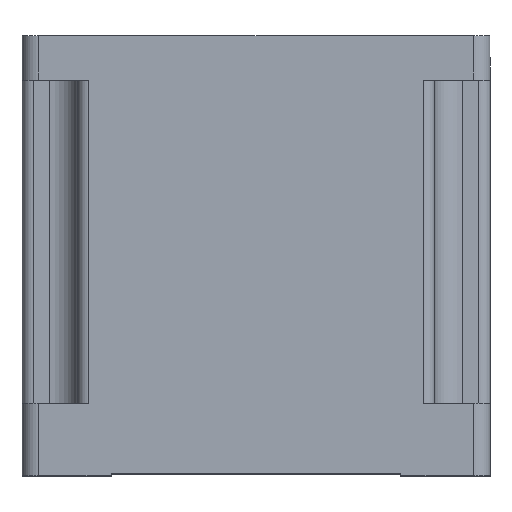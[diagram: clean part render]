
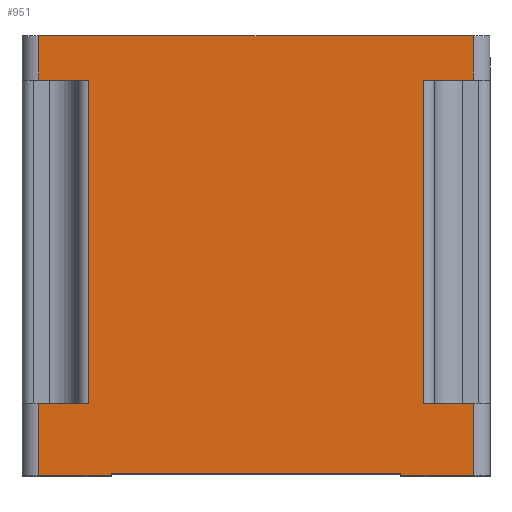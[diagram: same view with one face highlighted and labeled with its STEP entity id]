
A CAD part, top view. The second image highlights one B-rep face of the part: STEP entity #951.
In plain terms, the highlighted planar face has unit normal (0, 0, 1).
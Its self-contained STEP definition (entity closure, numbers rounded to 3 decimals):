
#20 = CARTESIAN_POINT ( 'NONE',  ( -19.5, 0., 21. ) ) ;
#31 = VERTEX_POINT ( 'NONE', #1897 ) ;
#33 = LINE ( 'NONE', #1794, #2622 ) ;
#64 = VECTOR ( 'NONE', #573, 1000. ) ;
#110 = VECTOR ( 'NONE', #1384, 1000. ) ;
#144 = CARTESIAN_POINT ( 'NONE',  ( 13., 0.2, 21. ) ) ;
#156 = CARTESIAN_POINT ( 'NONE',  ( 19.5, 39.5, 21. ) ) ;
#186 = DIRECTION ( 'NONE',  ( 1., 0., 0. ) ) ;
#190 = DIRECTION ( 'NONE',  ( 1., 0., 0. ) ) ;
#236 = ORIENTED_EDGE ( 'NONE', *, *, #595, .T. ) ;
#240 = EDGE_CURVE ( 'NONE', #2076, #1873, #2529, .T. ) ;
#243 = CARTESIAN_POINT ( 'NONE',  ( 21., 35.5, 21. ) ) ;
#250 = VERTEX_POINT ( 'NONE', #522 ) ;
#274 = VERTEX_POINT ( 'NONE', #2362 ) ;
#317 = LINE ( 'NONE', #1201, #1512 ) ;
#327 = DIRECTION ( 'NONE',  ( 0., -1., 0. ) ) ;
#334 = EDGE_CURVE ( 'NONE', #1200, #780, #1937, .T. ) ;
#373 = DIRECTION ( 'NONE',  ( 0., 1., 0. ) ) ;
#386 = EDGE_CURVE ( 'NONE', #2605, #2518, #2371, .T. ) ;
#389 = DIRECTION ( 'NONE',  ( 0., 1., 0. ) ) ;
#418 = ORIENTED_EDGE ( 'NONE', *, *, #685, .T. ) ;
#423 = CARTESIAN_POINT ( 'NONE',  ( 21., 39.5, 21. ) ) ;
#429 = DIRECTION ( 'NONE',  ( 0., 0., -1. ) ) ;
#433 = VECTOR ( 'NONE', #768, 1000. ) ;
#459 = EDGE_LOOP ( 'NONE', ( #528, #2325, #721, #1501, #1992, #418, #1237, #1974, #236, #935, #1666, #1976, #2428, #2144, #1027, #2291 ) ) ;
#516 = CARTESIAN_POINT ( 'NONE',  ( -13., 0.2, 21. ) ) ;
#522 = CARTESIAN_POINT ( 'NONE',  ( -13., 0.2, 21. ) ) ;
#524 = CARTESIAN_POINT ( 'NONE',  ( -19.5, 39.5, 21. ) ) ;
#528 = ORIENTED_EDGE ( 'NONE', *, *, #1103, .T. ) ;
#573 = DIRECTION ( 'NONE',  ( 1., 0., 0. ) ) ;
#574 = VERTEX_POINT ( 'NONE', #156 ) ;
#586 = VECTOR ( 'NONE', #2540, 1000. ) ;
#595 = EDGE_CURVE ( 'NONE', #780, #997, #1028, .T. ) ;
#605 = VERTEX_POINT ( 'NONE', #779 ) ;
#636 = EDGE_CURVE ( 'NONE', #2076, #250, #967, .T. ) ;
#642 = LINE ( 'NONE', #516, #702 ) ;
#650 = VERTEX_POINT ( 'NONE', #758 ) ;
#651 = VECTOR ( 'NONE', #373, 1000. ) ;
#666 = PLANE ( 'NONE',  #824 ) ;
#685 = EDGE_CURVE ( 'NONE', #2541, #650, #970, .T. ) ;
#691 = DIRECTION ( 'NONE',  ( -1., 0., 0. ) ) ;
#702 = VECTOR ( 'NONE', #327, 1000. ) ;
#721 = ORIENTED_EDGE ( 'NONE', *, *, #2333, .F. ) ;
#742 = CARTESIAN_POINT ( 'NONE',  ( -19.5, 35.5, 21. ) ) ;
#758 = CARTESIAN_POINT ( 'NONE',  ( -15., 6.5, 21. ) ) ;
#768 = DIRECTION ( 'NONE',  ( 0., -1., 0. ) ) ;
#771 = EDGE_CURVE ( 'NONE', #1873, #1271, #1853, .T. ) ;
#779 = CARTESIAN_POINT ( 'NONE',  ( 19.5, 6.5, 21. ) ) ;
#780 = VERTEX_POINT ( 'NONE', #20 ) ;
#821 = DIRECTION ( 'NONE',  ( 0., 1., 0. ) ) ;
#824 = AXIS2_PLACEMENT_3D ( 'NONE', #977, #429, #691 ) ;
#830 = VECTOR ( 'NONE', #966, 1000. ) ;
#862 = VECTOR ( 'NONE', #2499, 1000. ) ;
#900 = CARTESIAN_POINT ( 'NONE',  ( 13., 0.2, 21. ) ) ;
#934 = LINE ( 'NONE', #423, #862 ) ;
#935 = ORIENTED_EDGE ( 'NONE', *, *, #2601, .F. ) ;
#951 = ADVANCED_FACE ( 'NONE', ( #1361 ), #666, .F. ) ;
#954 = DIRECTION ( 'NONE',  ( 1., 0., 0. ) ) ;
#966 = DIRECTION ( 'NONE',  ( 1., 0., 0. ) ) ;
#967 = LINE ( 'NONE', #1589, #110 ) ;
#970 = LINE ( 'NONE', #2230, #433 ) ;
#974 = EDGE_CURVE ( 'NONE', #31, #574, #2380, .T. ) ;
#977 = CARTESIAN_POINT ( 'NONE',  ( -21., 35.5, 21. ) ) ;
#993 = CARTESIAN_POINT ( 'NONE',  ( 19.5, 35.5, 21. ) ) ;
#997 = VERTEX_POINT ( 'NONE', #1381 ) ;
#1002 = EDGE_CURVE ( 'NONE', #1468, #274, #2598, .T. ) ;
#1027 = ORIENTED_EDGE ( 'NONE', *, *, #2160, .F. ) ;
#1028 = LINE ( 'NONE', #1146, #830 ) ;
#1103 = EDGE_CURVE ( 'NONE', #2518, #31, #1206, .T. ) ;
#1143 = CARTESIAN_POINT ( 'NONE',  ( -21., 0., 21. ) ) ;
#1146 = CARTESIAN_POINT ( 'NONE',  ( -21., 0., 21. ) ) ;
#1157 = CARTESIAN_POINT ( 'NONE',  ( -19.5, 35.5, 21. ) ) ;
#1169 = VECTOR ( 'NONE', #190, 1000. ) ;
#1193 = VECTOR ( 'NONE', #821, 1000. ) ;
#1200 = VERTEX_POINT ( 'NONE', #1831 ) ;
#1201 = CARTESIAN_POINT ( 'NONE',  ( 0., 6.5, 21. ) ) ;
#1204 = VECTOR ( 'NONE', #2356, 1000. ) ;
#1206 = LINE ( 'NONE', #1789, #64 ) ;
#1237 = ORIENTED_EDGE ( 'NONE', *, *, #1623, .F. ) ;
#1271 = VERTEX_POINT ( 'NONE', #2517 ) ;
#1273 = CARTESIAN_POINT ( 'NONE',  ( 13., 0., 21. ) ) ;
#1325 = CARTESIAN_POINT ( 'NONE',  ( -15., 35.5, 21. ) ) ;
#1326 = LINE ( 'NONE', #243, #1204 ) ;
#1343 = EDGE_CURVE ( 'NONE', #274, #2541, #1326, .T. ) ;
#1361 = FACE_OUTER_BOUND ( 'NONE', #459, .T. ) ;
#1381 = CARTESIAN_POINT ( 'NONE',  ( -13., 0., 21. ) ) ;
#1384 = DIRECTION ( 'NONE',  ( -1., 0., 0. ) ) ;
#1468 = VERTEX_POINT ( 'NONE', #524 ) ;
#1501 = ORIENTED_EDGE ( 'NONE', *, *, #1002, .T. ) ;
#1506 = VECTOR ( 'NONE', #2423, 1000. ) ;
#1512 = VECTOR ( 'NONE', #186, 1000. ) ;
#1589 = CARTESIAN_POINT ( 'NONE',  ( 0., 0.2, 21. ) ) ;
#1623 = EDGE_CURVE ( 'NONE', #1200, #650, #1732, .T. ) ;
#1666 = ORIENTED_EDGE ( 'NONE', *, *, #636, .F. ) ;
#1732 = LINE ( 'NONE', #1777, #1169 ) ;
#1777 = CARTESIAN_POINT ( 'NONE',  ( 0., 6.5, 21. ) ) ;
#1779 = VECTOR ( 'NONE', #954, 1000. ) ;
#1789 = CARTESIAN_POINT ( 'NONE',  ( 21., 35.5, 21. ) ) ;
#1794 = CARTESIAN_POINT ( 'NONE',  ( 19.5, 35.5, 21. ) ) ;
#1821 = CARTESIAN_POINT ( 'NONE',  ( 15., 35.5, 21. ) ) ;
#1831 = CARTESIAN_POINT ( 'NONE',  ( -19.5, 6.5, 21. ) ) ;
#1853 = LINE ( 'NONE', #1143, #1779 ) ;
#1873 = VERTEX_POINT ( 'NONE', #1273 ) ;
#1897 = CARTESIAN_POINT ( 'NONE',  ( 19.5, 35.5, 21. ) ) ;
#1937 = LINE ( 'NONE', #742, #1506 ) ;
#1938 = CARTESIAN_POINT ( 'NONE',  ( 15., 6.5, 21. ) ) ;
#1974 = ORIENTED_EDGE ( 'NONE', *, *, #334, .T. ) ;
#1976 = ORIENTED_EDGE ( 'NONE', *, *, #240, .T. ) ;
#1992 = ORIENTED_EDGE ( 'NONE', *, *, #1343, .T. ) ;
#2008 = DIRECTION ( 'NONE',  ( 0., -1., 0. ) ) ;
#2076 = VERTEX_POINT ( 'NONE', #144 ) ;
#2144 = ORIENTED_EDGE ( 'NONE', *, *, #2151, .T. ) ;
#2151 = EDGE_CURVE ( 'NONE', #1271, #605, #33, .T. ) ;
#2160 = EDGE_CURVE ( 'NONE', #2605, #605, #317, .T. ) ;
#2230 = CARTESIAN_POINT ( 'NONE',  ( -15., 35.5, 21. ) ) ;
#2291 = ORIENTED_EDGE ( 'NONE', *, *, #386, .T. ) ;
#2325 = ORIENTED_EDGE ( 'NONE', *, *, #974, .T. ) ;
#2333 = EDGE_CURVE ( 'NONE', #1468, #574, #934, .T. ) ;
#2356 = DIRECTION ( 'NONE',  ( 1., 0., 0. ) ) ;
#2362 = CARTESIAN_POINT ( 'NONE',  ( -19.5, 35.5, 21. ) ) ;
#2371 = LINE ( 'NONE', #1821, #1193 ) ;
#2380 = LINE ( 'NONE', #993, #651 ) ;
#2392 = CARTESIAN_POINT ( 'NONE',  ( 15., 35.5, 21. ) ) ;
#2423 = DIRECTION ( 'NONE',  ( 0., -1., 0. ) ) ;
#2428 = ORIENTED_EDGE ( 'NONE', *, *, #771, .T. ) ;
#2449 = VECTOR ( 'NONE', #2008, 1000. ) ;
#2499 = DIRECTION ( 'NONE',  ( 1., 0., 0. ) ) ;
#2517 = CARTESIAN_POINT ( 'NONE',  ( 19.5, 0., 21. ) ) ;
#2518 = VERTEX_POINT ( 'NONE', #2392 ) ;
#2529 = LINE ( 'NONE', #900, #586 ) ;
#2540 = DIRECTION ( 'NONE',  ( 0., -1., 0. ) ) ;
#2541 = VERTEX_POINT ( 'NONE', #1325 ) ;
#2598 = LINE ( 'NONE', #1157, #2449 ) ;
#2601 = EDGE_CURVE ( 'NONE', #250, #997, #642, .T. ) ;
#2605 = VERTEX_POINT ( 'NONE', #1938 ) ;
#2622 = VECTOR ( 'NONE', #389, 1000. ) ;
